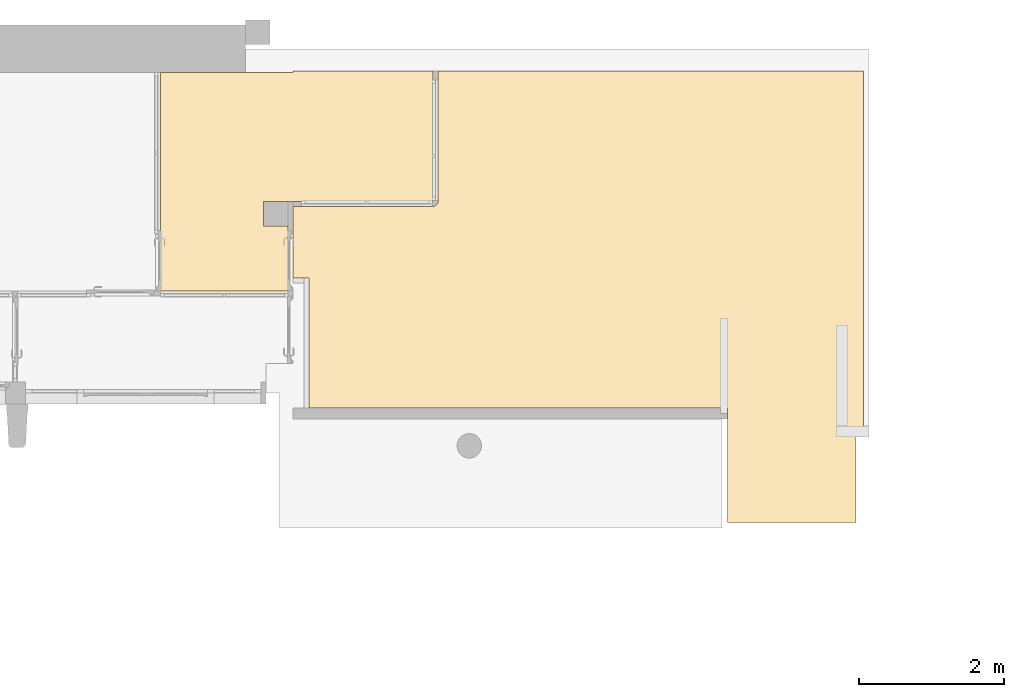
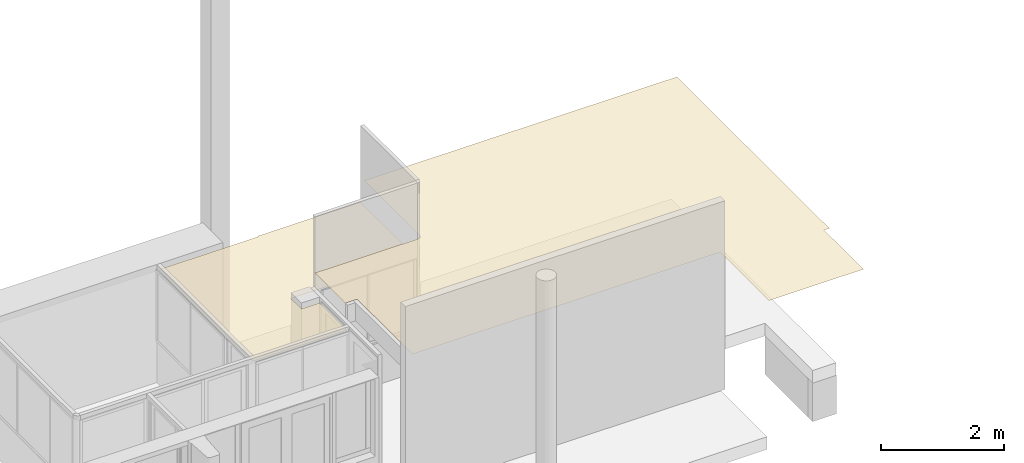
# One storey, part 17 of 19: 2 coverings.
"""IFC4 building model written with IfcOpenShell, lengths in metres."""

from ifc_helpers import new_model, entity, si_unit, converted_unit, derived_unit, direction, frame, origin, place, context, subcontext, project, spatial, polygons, material, layer, layer_set, type_object, element, save


model = new_model("IFC4")

# Units and contexts
model_context = context("Model", 3, precision=1e-05, world=origin(), true_north=direction((6.12303176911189e-17, 1.0)))
body_context = subcontext(model_context, "Body", "Model", "MODEL_VIEW")
ifc_project = project(units=[si_unit("LENGTHUNIT", "METRE"), si_unit("AREAUNIT", "SQUARE_METRE"), si_unit("VOLUMEUNIT", "CUBIC_METRE"), converted_unit("PLANEANGLEUNIT", "DEGREE", entity("IfcRatioMeasure", 0.0174532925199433), si_unit("PLANEANGLEUNIT", "RADIAN"), dimensions=[0, 0, 0, 0, 0, 0, 0]), si_unit("MASSUNIT", "GRAM", prefix="KILO"), derived_unit("MASSDENSITYUNIT", [(si_unit("MASSUNIT", "GRAM", prefix="KILO"), 1), (si_unit("LENGTHUNIT", "METRE"), -3)]), derived_unit("MOMENTOFINERTIAUNIT", [(si_unit("LENGTHUNIT", "METRE"), 4)]), si_unit("TIMEUNIT", "SECOND"), si_unit("FREQUENCYUNIT", "HERTZ"), si_unit("THERMODYNAMICTEMPERATUREUNIT", "DEGREE_CELSIUS"), derived_unit("THERMALTRANSMITTANCEUNIT", [(si_unit("MASSUNIT", "GRAM", prefix="KILO"), 1), (si_unit("THERMODYNAMICTEMPERATUREUNIT", "KELVIN"), -1), (si_unit("TIMEUNIT", "SECOND"), -3)]), derived_unit("VOLUMETRICFLOWRATEUNIT", [(si_unit("LENGTHUNIT", "METRE"), 3), (si_unit("TIMEUNIT", "SECOND"), -1)]), si_unit("ELECTRICCURRENTUNIT", "AMPERE"), si_unit("ELECTRICVOLTAGEUNIT", "VOLT"), si_unit("POWERUNIT", "WATT"), si_unit("FORCEUNIT", "NEWTON", prefix="KILO"), si_unit("ILLUMINANCEUNIT", "LUX"), si_unit("LUMINOUSFLUXUNIT", "LUMEN"), si_unit("LUMINOUSINTENSITYUNIT", "CANDELA"), derived_unit("USERDEFINED", [(si_unit("MASSUNIT", "GRAM", prefix="KILO"), -1), (si_unit("LENGTHUNIT", "METRE"), -2), (si_unit("TIMEUNIT", "SECOND"), 3), (si_unit("LUMINOUSFLUXUNIT", "LUMEN"), 1)]), derived_unit("LINEARVELOCITYUNIT", [(si_unit("LENGTHUNIT", "METRE"), 1), (si_unit("TIMEUNIT", "SECOND"), -1)]), si_unit("PRESSUREUNIT", "PASCAL"), derived_unit("USERDEFINED", [(si_unit("LENGTHUNIT", "METRE"), -2), (si_unit("MASSUNIT", "GRAM", prefix="KILO"), 1), (si_unit("TIMEUNIT", "SECOND"), -2)]), derived_unit("LINEARFORCEUNIT", [(si_unit("MASSUNIT", "GRAM", prefix="KILO"), 1), (si_unit("LENGTHUNIT", "METRE"), 1), (si_unit("TIMEUNIT", "SECOND"), -2), (si_unit("LENGTHUNIT", "METRE"), -1)]), derived_unit("PLANARFORCEUNIT", [(si_unit("MASSUNIT", "GRAM", prefix="KILO"), 1), (si_unit("LENGTHUNIT", "METRE"), 1), (si_unit("TIMEUNIT", "SECOND"), -2), (si_unit("LENGTHUNIT", "METRE"), -2)])], contexts=[model_context])

# Site, building, storey
site_placement = place(None, origin())
site = spatial("IfcSite", under=ifc_project, at=site_placement, Name="Default", CompositionType="ELEMENT")
building_placement = place(site_placement, origin())
building = spatial("IfcBuilding", under=site, at=building_placement, Name="HOTEL CONSULAIRE BOULOGNE SUR MER", CompositionType="ELEMENT")
storey_placement = place(building_placement, frame((0.0, 0.0, -4.01003075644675)))
storey = spatial("IfcBuildingStorey", under=building, at=storey_placement, Name="SS2", CompositionType="ELEMENT", Elevation=-4.01003075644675)

# Coverings
ifc_material = material(Name="Faux-plafond - Trame 600 x 600", Category="Divers")
ifc_layer = layer(ifc_material, 0.0, Name="Faux-plafond - Trame 600 x 600", Category="Divers")
ifc_layer_set = layer_set([ifc_layer], Name="Plafond de base:Plafond 600 mm x 1200 mm")
covering_type_1 = type_object("IfcCoveringType", Name="Plafond de base:Plafond 600 mm x 1200 mm", PredefinedType="CEILING")
covering_1_placement = place(storey_placement, frame((-13.4753496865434, -16.6745842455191, 2.62802588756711)))
element("IfcCovering", 1, at=covering_1_placement, inside=storey, type_object=covering_type_1, material=ifc_layer_set, Name="Plafond de base:Plafond 600 mm x 1200 mm", ObjectType="Plafond de base:Plafond 600 mm x 1200 mm", PredefinedType="CEILING", context=body_context, shape_type="Tessellation", body=[
    polygons([(2.16573425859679e-15, 4.35943497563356, 0.0), (0.0, 3.37475835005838, 0.0), (0.221040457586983, 3.37475835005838, 0.0), (0.221040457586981, 1.57800862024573, 0.0), (5.99036111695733, 1.57800862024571, 0.0), (5.99036111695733, 6.49720277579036e-15, 0.0), (7.76336111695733, 0.0, 0.0), (7.76336111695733, 1.27931796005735, 0.0), (7.86336111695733, 1.27931796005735, 0.0), (7.86336111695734, 6.22826007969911, 0.0), (2.00138863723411, 6.22826007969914, 0.0), (2.00138863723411, 4.43843497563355, 0.0), (1.99869677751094, 4.41798827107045, 0.0), (1.99080464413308, 4.39893497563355, 0.0), (1.97825007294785, 4.38257353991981, 0.0), (1.96188863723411, 4.37001896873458, 0.0), (1.94283534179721, 4.36212683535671, 0.0), (1.92238863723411, 4.35943497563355, 0.0)], [[[2, 3, 4, 5, 6, 7, 8, 9, 10, 11, 12, 13, 14, 15, 16, 17, 18, 1]]], closed=True),
])
covering_type_2 = type_object("IfcCoveringType", Name="Plafond de base:Plafond 600 mm x 1200 mm", PredefinedType="CEILING")
covering_2_placement = place(storey_placement, frame((-15.3021943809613, -13.47932416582, 2.224)))
element("IfcCovering", 2, at=covering_2_placement, inside=storey, type_object=covering_type_2, material=ifc_layer_set, Name="Plafond de base:Plafond 600 mm x 1200 mm", ObjectType="Plafond de base:Plafond 600 mm x 1200 mm", PredefinedType="CEILING", context=body_context, shape_type="Tessellation", body=[
    polygons([(4.33146851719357e-15, 3.01300000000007, 0.0), (0.0, 4.33146851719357e-15, 0.0), (1.75684469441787, 0.0, 0.0), (1.75684469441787, 0.893000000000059, 0.0), (1.41684469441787, 0.893000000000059, 0.0), (1.41684469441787, 1.23417489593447, 0.0), (3.74923333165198, 1.23417489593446, 0.0), (3.7515627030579, 1.23448156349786, 0.0), (3.75373333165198, 1.2353806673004, 0.0), (3.75559729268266, 1.23681093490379, 0.0), (3.75702756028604, 1.23867489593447, 0.0), (3.75792666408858, 1.24084552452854, 0.0), (3.75823333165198, 1.24317489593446, 0.0), (3.75823333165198, 3.03300000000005, 0.0), (1.82684469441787, 3.03300000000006, 0.0), (1.82684469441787, 3.01300000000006, 0.0)], [[[2, 3, 4, 5, 6, 7, 8, 9, 10, 11, 12, 13, 14, 15, 16, 1]]], closed=True),
])

save(model, "model.ifc")
